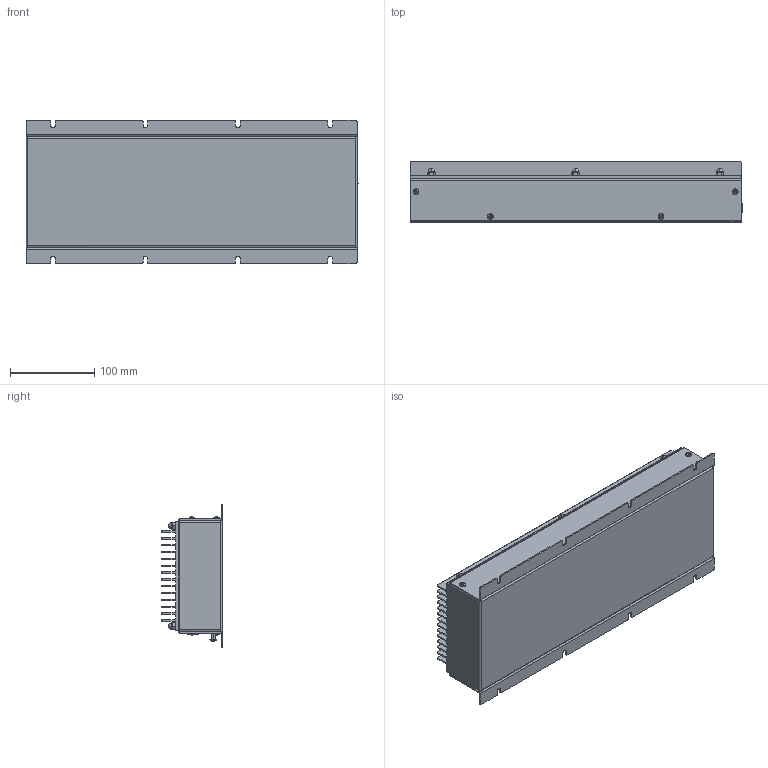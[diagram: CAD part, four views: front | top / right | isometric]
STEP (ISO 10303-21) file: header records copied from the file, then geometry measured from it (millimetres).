
FILE_DESCRIPTION (( 'STEP AP203' ), '1' );
FILE_NAME ('180 cell Final Assembly external faces 14fin.STEP', '2016-12-13T15:34:17', ( '' ), ( '' ), 'SwSTEP 2.0', 'SolidWorks 2016', '' );
FILE_SCHEMA (( 'CONFIG_CONTROL_DESIGN' ));
Products named in the file (1): 180 cell Final Assembly external faces 14fin
Bounding box: 395.17 x 72.59 x 170.59 mm (x, y, z)
Surface area: 553144.8 mm2 (no closed solid volume)
Topology: 0 solids, 34 shells, 1604 faces, 5925 edges, 4152 vertices
Faces by surface type: plane 1222, cylinder 268, cone 34, torus 30, sphere 28, bspline 22
Entity records: 63518 total; most frequent: CARTESIAN_POINT 15103, ORIENTED_EDGE 9456, DIRECTION 9394, EDGE_CURVE 5925, VERTEX_POINT 4152, VECTOR 4024, LINE 4024, AXIS2_PLACEMENT_3D 2685
